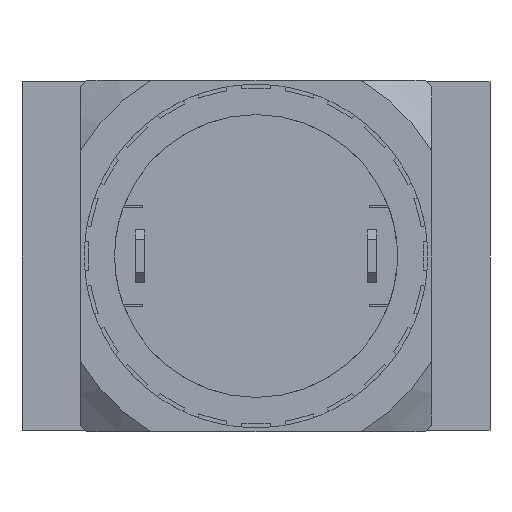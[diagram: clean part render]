
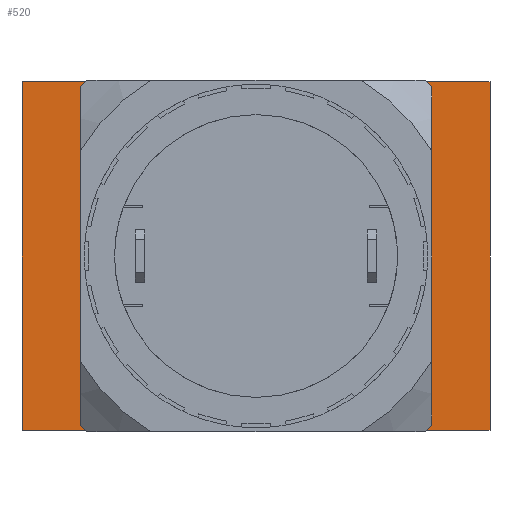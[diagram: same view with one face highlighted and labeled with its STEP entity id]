
A CAD part, front view. The second image highlights one B-rep face of the part: STEP entity #520.
In plain terms, the highlighted planar face has unit normal (0, -1, 0).
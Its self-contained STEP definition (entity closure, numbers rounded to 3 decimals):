
#520 = ADVANCED_FACE ( 'NONE', ( #4261, #3704 ), #4845, .T. ) ;
#584 = EDGE_CURVE ( 'NONE', #6903, #6899, #2170, .T. ) ;
#636 = EDGE_CURVE ( 'NONE', #6899, #6903, #2189, .T. ) ;
#1629 = ORIENTED_EDGE ( 'NONE', *, *, #1946, .F. ) ;
#1631 = ORIENTED_EDGE ( 'NONE', *, *, #584, .T. ) ;
#1632 = ORIENTED_EDGE ( 'NONE', *, *, #636, .T. ) ;
#1633 = ORIENTED_EDGE ( 'NONE', *, *, #1942, .F. ) ;
#1634 = ORIENTED_EDGE ( 'NONE', *, *, #1961, .F. ) ;
#1635 = ORIENTED_EDGE ( 'NONE', *, *, #1953, .F. ) ;
#1792 = EDGE_LOOP ( 'NONE', ( #1633, #1634, #1635, #1629 ) ) ;
#1793 = EDGE_LOOP ( 'NONE', ( #1631, #1632 ) ) ;
#1942 = EDGE_CURVE ( 'NONE', #6759, #6758, #5620, .T. ) ;
#1946 = EDGE_CURVE ( 'NONE', #6758, #6755, #5632, .T. ) ;
#1953 = EDGE_CURVE ( 'NONE', #6755, #6750, #5653, .T. ) ;
#1961 = EDGE_CURVE ( 'NONE', #6750, #6759, #5677, .T. ) ;
#2170 = CIRCLE ( 'NONE', #3539, 8.65 ) ;
#2189 = CIRCLE ( 'NONE', #3745, 8.65 ) ;
#3539 = AXIS2_PLACEMENT_3D ( 'NONE', #5060, #5061, #5062 ) ;
#3704 = FACE_OUTER_BOUND ( 'NONE', #1792, .T. ) ;
#3745 = AXIS2_PLACEMENT_3D ( 'NONE', #5216, #5217, #5218 ) ;
#3789 = VECTOR ( 'NONE', #5679, 1000. ) ;
#3797 = VECTOR ( 'NONE', #5655, 1000. ) ;
#3803 = VECTOR ( 'NONE', #5634, 1000. ) ;
#3807 = VECTOR ( 'NONE', #5622, 1000. ) ;
#4261 = FACE_BOUND ( 'NONE', #1793, .T. ) ;
#4362 = AXIS2_PLACEMENT_3D ( 'NONE', #4846, #4847, #4848 ) ;
#4845 = PLANE ( 'NONE',  #4362 ) ;
#4846 = CARTESIAN_POINT ( 'NONE',  ( 0., 18., 0. ) ) ;
#4847 = DIRECTION ( 'NONE',  ( 0., -1., 0. ) ) ;
#4848 = DIRECTION ( 'NONE',  ( 0., 0., -1. ) ) ;
#5060 = CARTESIAN_POINT ( 'NONE',  ( 0., 18., 0. ) ) ;
#5061 = DIRECTION ( 'NONE',  ( 0., 1., 0. ) ) ;
#5062 = DIRECTION ( 'NONE',  ( -1., 0., 0. ) ) ;
#5216 = CARTESIAN_POINT ( 'NONE',  ( 0., 18., 0. ) ) ;
#5217 = DIRECTION ( 'NONE',  ( 0., 1., 0. ) ) ;
#5218 = DIRECTION ( 'NONE',  ( -1., 0., 0. ) ) ;
#5620 = LINE ( 'NONE', #5621, #3807 ) ;
#5621 = CARTESIAN_POINT ( 'NONE',  ( 12., 18., 8.925 ) ) ;
#5622 = DIRECTION ( 'NONE',  ( 0., 0., -1. ) ) ;
#5632 = LINE ( 'NONE', #5633, #3803 ) ;
#5633 = CARTESIAN_POINT ( 'NONE',  ( -12., 18., -8.925 ) ) ;
#5634 = DIRECTION ( 'NONE',  ( -1., 0., 0. ) ) ;
#5653 = LINE ( 'NONE', #5654, #3797 ) ;
#5654 = CARTESIAN_POINT ( 'NONE',  ( -12., 18., 8.925 ) ) ;
#5655 = DIRECTION ( 'NONE',  ( 0., 0., 1. ) ) ;
#5677 = LINE ( 'NONE', #5678, #3789 ) ;
#5678 = CARTESIAN_POINT ( 'NONE',  ( -12., 18., 8.925 ) ) ;
#5679 = DIRECTION ( 'NONE',  ( 1., 0., 0. ) ) ;
#6161 = CARTESIAN_POINT ( 'NONE',  ( -12., 18., 8.925 ) ) ;
#6166 = CARTESIAN_POINT ( 'NONE',  ( -12., 18., -8.925 ) ) ;
#6169 = CARTESIAN_POINT ( 'NONE',  ( 12., 18., -8.925 ) ) ;
#6170 = CARTESIAN_POINT ( 'NONE',  ( 12., 18., 8.925 ) ) ;
#6310 = CARTESIAN_POINT ( 'NONE',  ( 8.65, 18., 0. ) ) ;
#6314 = CARTESIAN_POINT ( 'NONE',  ( -8.65, 18., 0. ) ) ;
#6750 = VERTEX_POINT ( 'NONE', #6161 ) ;
#6755 = VERTEX_POINT ( 'NONE', #6166 ) ;
#6758 = VERTEX_POINT ( 'NONE', #6169 ) ;
#6759 = VERTEX_POINT ( 'NONE', #6170 ) ;
#6899 = VERTEX_POINT ( 'NONE', #6310 ) ;
#6903 = VERTEX_POINT ( 'NONE', #6314 ) ;
